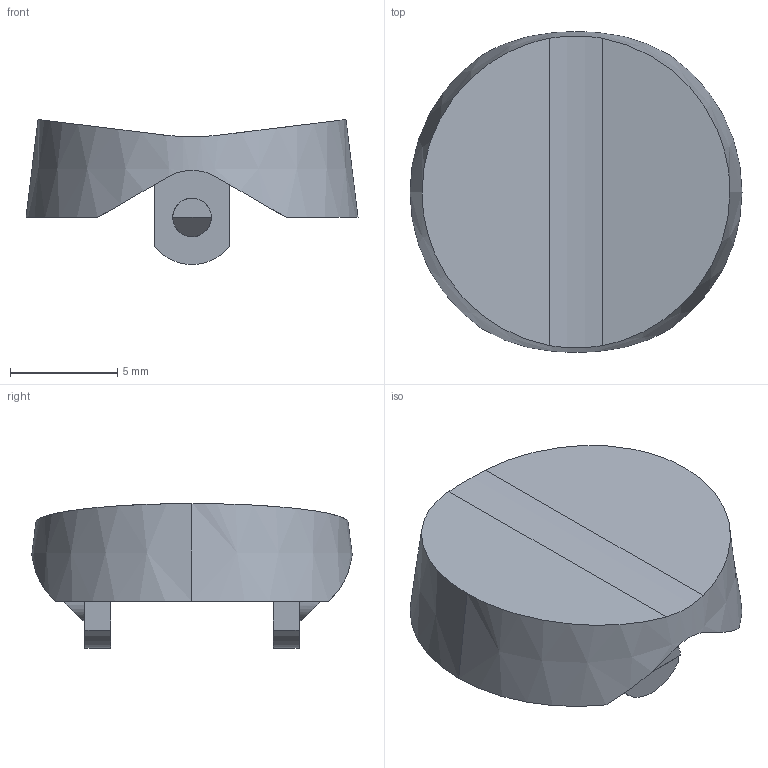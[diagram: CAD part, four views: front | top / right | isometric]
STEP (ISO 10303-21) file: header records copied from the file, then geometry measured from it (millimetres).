
FILE_DESCRIPTION(('Surface Model. B-Spline boundary curves.'),'1');
FILE_NAME('C:\Programme\CORETECH\in\43_409_-007.step','2001-10-16 T',(' '),(' '),'STEP Interface v180.0 by CORETECH International','TRANS-3D v180.0 by CORETECH International',' ');
FILE_SCHEMA(('CONFIG_CONTROL_DESIGN'));
Length unit declared in the file: millimetre
Products named in the file (1): 43_409_-007
Bounding box: 15.5 x 14.96 x 6.76 mm (x, y, z)
Volume: 381.3 mm3; surface area: 709.6 mm2
Topology: 1 solids, 1 shells, 262 faces, 726 edges, 484 vertices
Faces by surface type: plane 235, cylinder 23, cone 4
Entity records: 8440 total; most frequent: CARTESIAN_POINT 1697, ORIENTED_EDGE 1452, DIRECTION 1282, EDGE_CURVE 726, VECTOR 656, LINE 656, VERTEX_POINT 484, AXIS2_PLACEMENT_3D 313
